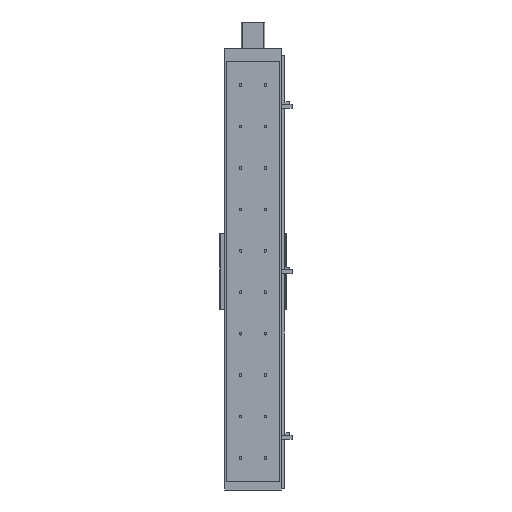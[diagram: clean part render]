
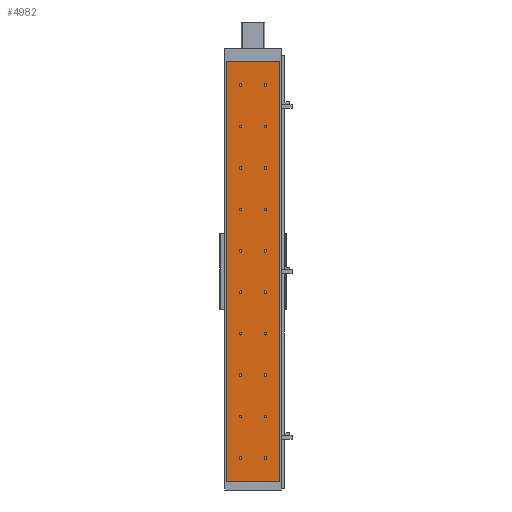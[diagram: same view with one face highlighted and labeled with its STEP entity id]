
A CAD part, front view. The second image highlights one B-rep face of the part: STEP entity #4982.
In plain terms, the highlighted planar face has unit normal (0, -1, 0).
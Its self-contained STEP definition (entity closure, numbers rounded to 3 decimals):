
#2214=CARTESIAN_POINT('',(26.75,0.0,57.5));
#2215=VERTEX_POINT('',#2214);
#2216=CARTESIAN_POINT('',(30.,0.0,57.5));
#2217=DIRECTION('',(0.0,1.0,0.0));
#2218=DIRECTION('',(1.0,0.0,0.0));
#2219=AXIS2_PLACEMENT_3D('',#2216,#2217,#2218);
#2220=CIRCLE('',#2219,3.25);
#2221=EDGE_CURVE('',#2215,#2215,#2220,.T.);
#2255=CARTESIAN_POINT('',(-33.25,0.0,57.5));
#2256=VERTEX_POINT('',#2255);
#2257=CARTESIAN_POINT('',(-30.,0.0,57.5));
#2258=DIRECTION('',(0.0,1.0,0.0));
#2259=DIRECTION('',(1.0,0.0,0.0));
#2260=AXIS2_PLACEMENT_3D('',#2257,#2258,#2259);
#2261=CIRCLE('',#2260,3.25);
#2262=EDGE_CURVE('',#2256,#2256,#2261,.T.);
#2434=CARTESIAN_POINT('',(26.75,0.0,157.5));
#2435=VERTEX_POINT('',#2434);
#2436=CARTESIAN_POINT('',(30.,0.0,157.5));
#2437=DIRECTION('',(0.0,1.0,0.0));
#2438=DIRECTION('',(1.0,0.0,0.0));
#2439=AXIS2_PLACEMENT_3D('',#2436,#2437,#2438);
#2440=CIRCLE('',#2439,3.25);
#2441=EDGE_CURVE('',#2435,#2435,#2440,.T.);
#2475=CARTESIAN_POINT('',(-33.25,0.0,157.5));
#2476=VERTEX_POINT('',#2475);
#2477=CARTESIAN_POINT('',(-30.,0.0,157.5));
#2478=DIRECTION('',(0.0,1.0,0.0));
#2479=DIRECTION('',(1.0,0.0,0.0));
#2480=AXIS2_PLACEMENT_3D('',#2477,#2478,#2479);
#2481=CIRCLE('',#2480,3.25);
#2482=EDGE_CURVE('',#2476,#2476,#2481,.T.);
#2654=CARTESIAN_POINT('',(26.75,0.0,257.5));
#2655=VERTEX_POINT('',#2654);
#2656=CARTESIAN_POINT('',(30.,0.0,257.5));
#2657=DIRECTION('',(0.0,1.0,0.0));
#2658=DIRECTION('',(1.0,0.0,0.0));
#2659=AXIS2_PLACEMENT_3D('',#2656,#2657,#2658);
#2660=CIRCLE('',#2659,3.25);
#2661=EDGE_CURVE('',#2655,#2655,#2660,.T.);
#2695=CARTESIAN_POINT('',(-33.25,0.0,257.5));
#2696=VERTEX_POINT('',#2695);
#2697=CARTESIAN_POINT('',(-30.,0.0,257.5));
#2698=DIRECTION('',(0.0,1.0,0.0));
#2699=DIRECTION('',(1.0,0.0,0.0));
#2700=AXIS2_PLACEMENT_3D('',#2697,#2698,#2699);
#2701=CIRCLE('',#2700,3.25);
#2702=EDGE_CURVE('',#2696,#2696,#2701,.T.);
#2874=CARTESIAN_POINT('',(26.75,0.0,357.5));
#2875=VERTEX_POINT('',#2874);
#2876=CARTESIAN_POINT('',(30.,0.0,357.5));
#2877=DIRECTION('',(0.0,1.0,0.0));
#2878=DIRECTION('',(1.0,0.0,0.0));
#2879=AXIS2_PLACEMENT_3D('',#2876,#2877,#2878);
#2880=CIRCLE('',#2879,3.25);
#2881=EDGE_CURVE('',#2875,#2875,#2880,.T.);
#2915=CARTESIAN_POINT('',(-33.25,0.0,357.5));
#2916=VERTEX_POINT('',#2915);
#2917=CARTESIAN_POINT('',(-30.,0.0,357.5));
#2918=DIRECTION('',(0.0,1.0,0.0));
#2919=DIRECTION('',(1.0,0.0,0.0));
#2920=AXIS2_PLACEMENT_3D('',#2917,#2918,#2919);
#2921=CIRCLE('',#2920,3.25);
#2922=EDGE_CURVE('',#2916,#2916,#2921,.T.);
#3025=CARTESIAN_POINT('',(-33.25,0.0,657.5));
#3026=VERTEX_POINT('',#3025);
#3027=CARTESIAN_POINT('',(-30.,0.0,657.5));
#3028=DIRECTION('',(0.0,1.0,0.0));
#3029=DIRECTION('',(1.0,0.0,0.0));
#3030=AXIS2_PLACEMENT_3D('',#3027,#3028,#3029);
#3031=CIRCLE('',#3030,3.25);
#3032=EDGE_CURVE('',#3026,#3026,#3031,.T.);
#3204=CARTESIAN_POINT('',(26.75,0.0,657.5));
#3205=VERTEX_POINT('',#3204);
#3206=CARTESIAN_POINT('',(30.,0.0,657.5));
#3207=DIRECTION('',(0.0,1.0,0.0));
#3208=DIRECTION('',(1.0,0.0,0.0));
#3209=AXIS2_PLACEMENT_3D('',#3206,#3207,#3208);
#3210=CIRCLE('',#3209,3.25);
#3211=EDGE_CURVE('',#3205,#3205,#3210,.T.);
#3245=CARTESIAN_POINT('',(-33.25,0.0,757.5));
#3246=VERTEX_POINT('',#3245);
#3247=CARTESIAN_POINT('',(-30.,0.0,757.5));
#3248=DIRECTION('',(0.0,1.0,0.0));
#3249=DIRECTION('',(1.0,0.0,0.0));
#3250=AXIS2_PLACEMENT_3D('',#3247,#3248,#3249);
#3251=CIRCLE('',#3250,3.25);
#3252=EDGE_CURVE('',#3246,#3246,#3251,.T.);
#3424=CARTESIAN_POINT('',(26.75,0.0,757.5));
#3425=VERTEX_POINT('',#3424);
#3426=CARTESIAN_POINT('',(30.,0.0,757.5));
#3427=DIRECTION('',(0.0,1.0,0.0));
#3428=DIRECTION('',(1.0,0.0,0.0));
#3429=AXIS2_PLACEMENT_3D('',#3426,#3427,#3428);
#3430=CIRCLE('',#3429,3.25);
#3431=EDGE_CURVE('',#3425,#3425,#3430,.T.);
#3465=CARTESIAN_POINT('',(-33.25,0.0,857.5));
#3466=VERTEX_POINT('',#3465);
#3467=CARTESIAN_POINT('',(-30.,0.0,857.5));
#3468=DIRECTION('',(0.0,1.0,0.0));
#3469=DIRECTION('',(1.0,0.0,0.0));
#3470=AXIS2_PLACEMENT_3D('',#3467,#3468,#3469);
#3471=CIRCLE('',#3470,3.25);
#3472=EDGE_CURVE('',#3466,#3466,#3471,.T.);
#3644=CARTESIAN_POINT('',(26.75,0.0,857.5));
#3645=VERTEX_POINT('',#3644);
#3646=CARTESIAN_POINT('',(30.,0.0,857.5));
#3647=DIRECTION('',(0.0,1.0,0.0));
#3648=DIRECTION('',(1.0,0.0,0.0));
#3649=AXIS2_PLACEMENT_3D('',#3646,#3647,#3648);
#3650=CIRCLE('',#3649,3.25);
#3651=EDGE_CURVE('',#3645,#3645,#3650,.T.);
#3685=CARTESIAN_POINT('',(-33.25,0.0,957.5));
#3686=VERTEX_POINT('',#3685);
#3687=CARTESIAN_POINT('',(-30.,0.0,957.5));
#3688=DIRECTION('',(0.0,1.0,0.0));
#3689=DIRECTION('',(1.0,0.0,0.0));
#3690=AXIS2_PLACEMENT_3D('',#3687,#3688,#3689);
#3691=CIRCLE('',#3690,3.25);
#3692=EDGE_CURVE('',#3686,#3686,#3691,.T.);
#3864=CARTESIAN_POINT('',(26.75,0.0,957.5));
#3865=VERTEX_POINT('',#3864);
#3866=CARTESIAN_POINT('',(30.,0.0,957.5));
#3867=DIRECTION('',(0.0,1.0,0.0));
#3868=DIRECTION('',(1.0,0.0,0.0));
#3869=AXIS2_PLACEMENT_3D('',#3866,#3867,#3868);
#3870=CIRCLE('',#3869,3.25);
#3871=EDGE_CURVE('',#3865,#3865,#3870,.T.);
#3905=CARTESIAN_POINT('',(-33.25,0.0,457.5));
#3906=VERTEX_POINT('',#3905);
#3907=CARTESIAN_POINT('',(-30.,0.0,457.5));
#3908=DIRECTION('',(0.0,1.0,0.0));
#3909=DIRECTION('',(1.0,0.0,0.0));
#3910=AXIS2_PLACEMENT_3D('',#3907,#3908,#3909);
#3911=CIRCLE('',#3910,3.25);
#3912=EDGE_CURVE('',#3906,#3906,#3911,.T.);
#4084=CARTESIAN_POINT('',(26.75,0.0,457.5));
#4085=VERTEX_POINT('',#4084);
#4086=CARTESIAN_POINT('',(30.,0.0,457.5));
#4087=DIRECTION('',(0.0,1.0,0.0));
#4088=DIRECTION('',(1.0,0.0,0.0));
#4089=AXIS2_PLACEMENT_3D('',#4086,#4087,#4088);
#4090=CIRCLE('',#4089,3.25);
#4091=EDGE_CURVE('',#4085,#4085,#4090,.T.);
#4194=CARTESIAN_POINT('',(26.75,0.0,557.5));
#4195=VERTEX_POINT('',#4194);
#4196=CARTESIAN_POINT('',(30.,0.0,557.5));
#4197=DIRECTION('',(0.0,1.0,0.0));
#4198=DIRECTION('',(1.0,0.0,0.0));
#4199=AXIS2_PLACEMENT_3D('',#4196,#4197,#4198);
#4200=CIRCLE('',#4199,3.25);
#4201=EDGE_CURVE('',#4195,#4195,#4200,.T.);
#4304=CARTESIAN_POINT('',(-33.25,0.0,557.5));
#4305=VERTEX_POINT('',#4304);
#4306=CARTESIAN_POINT('',(-30.,0.0,557.5));
#4307=DIRECTION('',(0.0,1.0,0.0));
#4308=DIRECTION('',(1.0,0.0,0.0));
#4309=AXIS2_PLACEMENT_3D('',#4306,#4307,#4308);
#4310=CIRCLE('',#4309,3.25);
#4311=EDGE_CURVE('',#4305,#4305,#4310,.T.);
#4638=CARTESIAN_POINT('',(65.0,0.0,0.0));
#4639=VERTEX_POINT('',#4638);
#4646=CARTESIAN_POINT('',(-65.0,0.0,0.0));
#4647=VERTEX_POINT('',#4646);
#4648=CARTESIAN_POINT('',(-65.0,0.0,0.0));
#4649=DIRECTION('',(1.0,0.0,0.0));
#4650=VECTOR('',#4649,130.0);
#4651=LINE('',#4648,#4650);
#4652=EDGE_CURVE('',#4647,#4639,#4651,.T.);
#4842=CARTESIAN_POINT('',(-65.0,0.0,1015.0));
#4843=VERTEX_POINT('',#4842);
#4850=CARTESIAN_POINT('',(65.0,0.0,1015.0));
#4851=VERTEX_POINT('',#4850);
#4852=CARTESIAN_POINT('',(65.0,0.0,1015.0));
#4853=DIRECTION('',(-1.0,0.0,0.0));
#4854=VECTOR('',#4853,130.0);
#4855=LINE('',#4852,#4854);
#4856=EDGE_CURVE('',#4851,#4843,#4855,.T.);
#4879=CARTESIAN_POINT('',(-65.0,0.0,0.0));
#4880=DIRECTION('',(0.0,0.0,1.0));
#4881=VECTOR('',#4880,1015.0);
#4882=LINE('',#4879,#4881);
#4883=EDGE_CURVE('',#4647,#4843,#4882,.T.);
#4901=CARTESIAN_POINT('',(65.0,0.0,0.0));
#4902=DIRECTION('',(0.0,0.0,1.0));
#4903=VECTOR('',#4902,1015.0);
#4904=LINE('',#4901,#4903);
#4905=EDGE_CURVE('',#4639,#4851,#4904,.T.);
#4911=CARTESIAN_POINT('',(65.0,0.0,0.0));
#4912=DIRECTION('',(0.0,-1.0,0.0));
#4913=DIRECTION('',(0.0,0.0,-1.0));
#4914=AXIS2_PLACEMENT_3D('',#4911,#4912,#4913);
#4915=PLANE('',#4914);
#4916=ORIENTED_EDGE('',*,*,#4856,.T.);
#4917=ORIENTED_EDGE('',*,*,#4883,.F.);
#4918=ORIENTED_EDGE('',*,*,#4652,.T.);
#4919=ORIENTED_EDGE('',*,*,#4905,.T.);
#4920=EDGE_LOOP('',(#4916,#4917,#4918,#4919));
#4921=FACE_OUTER_BOUND('',#4920,.T.);
#4922=ORIENTED_EDGE('',*,*,#2221,.T.);
#4923=EDGE_LOOP('',(#4922));
#4924=FACE_BOUND('',#4923,.T.);
#4925=ORIENTED_EDGE('',*,*,#2262,.T.);
#4926=EDGE_LOOP('',(#4925));
#4927=FACE_BOUND('',#4926,.T.);
#4928=ORIENTED_EDGE('',*,*,#2441,.T.);
#4929=EDGE_LOOP('',(#4928));
#4930=FACE_BOUND('',#4929,.T.);
#4931=ORIENTED_EDGE('',*,*,#2482,.T.);
#4932=EDGE_LOOP('',(#4931));
#4933=FACE_BOUND('',#4932,.T.);
#4934=ORIENTED_EDGE('',*,*,#2661,.T.);
#4935=EDGE_LOOP('',(#4934));
#4936=FACE_BOUND('',#4935,.T.);
#4937=ORIENTED_EDGE('',*,*,#2702,.T.);
#4938=EDGE_LOOP('',(#4937));
#4939=FACE_BOUND('',#4938,.T.);
#4940=ORIENTED_EDGE('',*,*,#2881,.T.);
#4941=EDGE_LOOP('',(#4940));
#4942=FACE_BOUND('',#4941,.T.);
#4943=ORIENTED_EDGE('',*,*,#2922,.T.);
#4944=EDGE_LOOP('',(#4943));
#4945=FACE_BOUND('',#4944,.T.);
#4946=ORIENTED_EDGE('',*,*,#3032,.T.);
#4947=EDGE_LOOP('',(#4946));
#4948=FACE_BOUND('',#4947,.T.);
#4949=ORIENTED_EDGE('',*,*,#3211,.T.);
#4950=EDGE_LOOP('',(#4949));
#4951=FACE_BOUND('',#4950,.T.);
#4952=ORIENTED_EDGE('',*,*,#3252,.T.);
#4953=EDGE_LOOP('',(#4952));
#4954=FACE_BOUND('',#4953,.T.);
#4955=ORIENTED_EDGE('',*,*,#3431,.T.);
#4956=EDGE_LOOP('',(#4955));
#4957=FACE_BOUND('',#4956,.T.);
#4958=ORIENTED_EDGE('',*,*,#3472,.T.);
#4959=EDGE_LOOP('',(#4958));
#4960=FACE_BOUND('',#4959,.T.);
#4961=ORIENTED_EDGE('',*,*,#3651,.T.);
#4962=EDGE_LOOP('',(#4961));
#4963=FACE_BOUND('',#4962,.T.);
#4964=ORIENTED_EDGE('',*,*,#3692,.T.);
#4965=EDGE_LOOP('',(#4964));
#4966=FACE_BOUND('',#4965,.T.);
#4967=ORIENTED_EDGE('',*,*,#3871,.T.);
#4968=EDGE_LOOP('',(#4967));
#4969=FACE_BOUND('',#4968,.T.);
#4970=ORIENTED_EDGE('',*,*,#3912,.T.);
#4971=EDGE_LOOP('',(#4970));
#4972=FACE_BOUND('',#4971,.T.);
#4973=ORIENTED_EDGE('',*,*,#4091,.T.);
#4974=EDGE_LOOP('',(#4973));
#4975=FACE_BOUND('',#4974,.T.);
#4976=ORIENTED_EDGE('',*,*,#4201,.T.);
#4977=EDGE_LOOP('',(#4976));
#4978=FACE_BOUND('',#4977,.T.);
#4979=ORIENTED_EDGE('',*,*,#4311,.T.);
#4980=EDGE_LOOP('',(#4979));
#4981=FACE_BOUND('',#4980,.T.);
#4982=ADVANCED_FACE('',(#4921,#4924,#4927,#4930,#4933,#4936,#4939,#4942,#4945,#4948,#4951,#4954,#4957,#4960,#4963,#4966,#4969,#4972,#4975,#4978,#4981),#4915,.T.);
